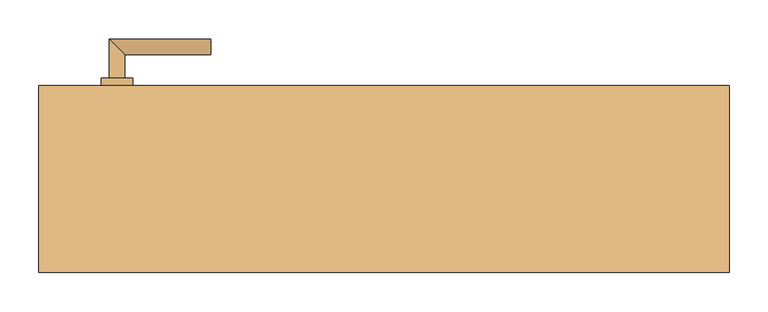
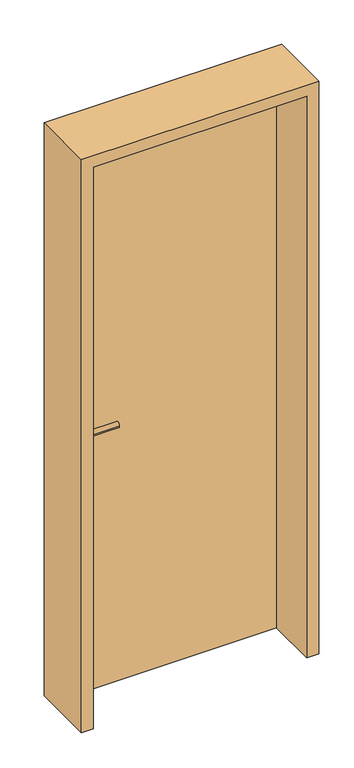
"""IFC4 building model written with IfcOpenShell, lengths in millimetres: door geometry, TU DF 1 - Rahmenstock flächenbündig variabel : ML - H - 885 x 2260."""

from ifc_helpers import new_model, si_unit, point, frame, frame_2d, origin, origin_with_axes, place, context, project, spatial, polyline, circle_curve, ellipse_curve, trimmed, segment, composite_curve, outline, extrude, faceted_brep, source, transform, mapped, element, save
from ifc_brep_helpers import plane_surface, cylinder_surface, advanced_brep


def door_5454d597(model_context):
    return source(origin(), model_context, "Body", "SolidModel", [
        extrude(outline(polyline([(408.5, 120.0), (408.5, 75.0), (-408.5, 75.0), (-408.5, 120.0), (408.5, 120.0)])), origin_with_axes(), (0.0, 0.0, 1.0), 2226.0),
        advanced_brep(
        [(-332.5, 130.0, 1050.0), (-352.5, 130.0, 1050.0), (-332.5, 160.0, 1050.0), (-352.5, 180.0, 1050.0), (-222.5, 160.0, 1050.0), (-222.5, 180.0, 1050.0)],
        [
            (0, 1, circle_curve(frame((-342.5, 130.0, 1050.0), z_axis=(0.0, -1.0, 0.0), x_axis=(-1.0, 0.0, 0.0)), 10.0)),
            (1, 0, circle_curve(frame((-342.5, 130.0, 1050.0), z_axis=(0.0, -1.0, 0.0), x_axis=(-1.0, 0.0, 0.0)), 10.0)),
            (0, 2),
            (2, 3, ellipse_curve(frame((-342.5, 170.0, 1050.0), z_axis=(-0.7071067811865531, -0.7071067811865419, 0.0), x_axis=(0.707106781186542, -0.707106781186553, 0.0)), 14.1421356, 10.0)),
            (3, 1),
            (3, 2, ellipse_curve(frame((-342.5, 170.0, 1050.0), z_axis=(-0.7071067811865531, -0.7071067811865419, 0.0), x_axis=(0.707106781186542, -0.707106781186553, 0.0)), 14.1421356, 10.0)),
            (4, 5, circle_curve(frame((-222.5, 170.0, 1050.0), z_axis=(1.0, 0.0, 0.0), x_axis=(0.0, 1.0, 0.0)), 10.0)),
            (5, 4, circle_curve(frame((-222.5, 170.0, 1050.0), z_axis=(1.0, 0.0, 0.0), x_axis=(0.0, 1.0, 0.0)), 10.0)),
            (2, 4),
            (5, 3),
        ],
        [
            plane_surface(frame((-342.5, 130.0, 1050.0), z_axis=(0.0, -1.0, 0.0), x_axis=(0.0, 0.0, 1.0))),
            cylinder_surface(frame((-342.5, 130.0, 1050.0), z_axis=(0.0, -1.0, 0.0), x_axis=(-1.0, 0.0, 0.0)), 10.0),
            plane_surface(frame((-222.5, 170.0, 1050.0), z_axis=(1.0, 0.0, 0.0), x_axis=(0.0, 0.0, 1.0))),
            cylinder_surface(frame((-342.5, 170.0, 1050.0), z_axis=(-1.0, 0.0, 0.0), x_axis=(0.0, 1.0, 0.0)), 10.0),
        ],
        [
            (0, [[1, 2]]),
            (1, [[-1, 3, 4, 5]]),
            (1, [[-2, -5, 6, -3]]),
            (2, [[7, 8]]),
            (3, [[-4, 9, -8, 10]]),
            (3, [[-6, -10, -7, -9]]),
        ],
    ),
        extrude(outline(composite_curve([segment(trimmed(circle_curve(frame_2d((990.0, -342.5)), 20.0), [point((990.0, -362.5))], [point((990.0, -322.5))], False, "CARTESIAN"), True, "CONTINUOUS"), segment(trimmed(circle_curve(frame_2d((990.0, -342.5)), 20.0), [point((990.0, -322.5))], [point((990.0, -362.5))], False, "CARTESIAN"), True, "CONTINUOUS")], self_intersect=False), holes=[composite_curve([segment(polyline([(976.4601385, -344.897268), (988.4749012, -344.897268)]), True, "CONTINUOUS"), segment(trimmed(circle_curve(frame_2d((995.0361633, -342.5)), 6.9854888), [point((988.4749012, -344.897268))], [point((988.4749012, -340.102732))], True, "CARTESIAN"), True, "CONTINUOUS"), segment(polyline([(988.4749012, -340.102732), (976.4601385, -340.102732)]), True, "CONTINUOUS"), segment(trimmed(circle_curve(frame_2d((976.4601385, -342.5)), 2.397268), [point((976.4601385, -340.102732))], [point((976.4601385, -344.897268))], True, "CARTESIAN"), True, "CONTINUOUS")], self_intersect=False)]), frame((0.0, 120.0, 0.0), z_axis=(0.0, 1.0, 0.0), x_axis=(0.0, 0.0, 1.0)), (0.0, 0.0, 1.0), 10.0),
        advanced_brep(
        [(-332.5, 130.0, 1050.0), (-352.5, 130.0, 1050.0), (-332.5, 160.0, 1050.0), (-352.5, 180.0, 1050.0), (-222.5, 160.0, 1050.0), (-222.5, 180.0, 1050.0)],
        [
            (0, 1, circle_curve(frame((-342.5, 130.0, 1050.0), z_axis=(0.0, -1.0, 0.0), x_axis=(-1.0, 0.0, 0.0)), 10.0)),
            (1, 0, circle_curve(frame((-342.5, 130.0, 1050.0), z_axis=(0.0, -1.0, 0.0), x_axis=(-1.0, 0.0, 0.0)), 10.0)),
            (0, 2),
            (2, 3, ellipse_curve(frame((-342.5, 170.0, 1050.0), z_axis=(-0.7071067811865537, -0.7071067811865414, 0.0), x_axis=(0.7071067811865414, -0.7071067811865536, 0.0)), 14.1421356, 10.0)),
            (3, 1),
            (3, 2, ellipse_curve(frame((-342.5, 170.0, 1050.0), z_axis=(-0.7071067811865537, -0.7071067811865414, 0.0), x_axis=(0.7071067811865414, -0.7071067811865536, 0.0)), 14.1421356, 10.0)),
            (4, 5, circle_curve(frame((-222.5, 170.0, 1050.0), z_axis=(1.0, 0.0, 0.0), x_axis=(0.0, 1.0, 0.0)), 10.0)),
            (5, 4, circle_curve(frame((-222.5, 170.0, 1050.0), z_axis=(1.0, 0.0, 0.0), x_axis=(0.0, 1.0, 0.0)), 10.0)),
            (2, 4),
            (5, 3),
        ],
        [
            plane_surface(frame((-342.5, 130.0, 1050.0), z_axis=(0.0, -1.0, 0.0), x_axis=(0.0, 0.0, 1.0))),
            cylinder_surface(frame((-342.5, 130.0, 1050.0), z_axis=(0.0, -1.0, 0.0), x_axis=(-1.0, 0.0, 0.0)), 10.0),
            plane_surface(frame((-222.5, 170.0, 1050.0), z_axis=(1.0, 0.0, 0.0), x_axis=(0.0, 0.0, 1.0))),
            cylinder_surface(frame((-342.5, 170.0, 1050.0), z_axis=(-1.0, 0.0, 0.0), x_axis=(0.0, 1.0, 0.0)), 10.0),
        ],
        [
            (0, [[1, 2]]),
            (1, [[-1, 3, 4, 5]]),
            (1, [[-2, -5, 6, -3]]),
            (2, [[7, 8]]),
            (3, [[-4, 9, -8, 10]]),
            (3, [[-6, -10, -7, -9]]),
        ],
    ),
        extrude(outline(composite_curve([segment(trimmed(circle_curve(frame_2d((1050.0, -342.5)), 20.0), [point((1050.0, -362.5))], [point((1050.0, -322.5))], False, "CARTESIAN"), True, "CONTINUOUS"), segment(trimmed(circle_curve(frame_2d((1050.0, -342.5)), 20.0), [point((1050.0, -322.5))], [point((1050.0, -362.5))], False, "CARTESIAN"), True, "CONTINUOUS")], self_intersect=False)), frame((0.0, 120.0, 0.0), z_axis=(0.0, 1.0, 0.0), x_axis=(0.0, 0.0, 1.0)), (0.0, 0.0, 1.0), 10.0),
        advanced_brep(
        [(-332.5, 65.0, 1050.0), (-352.5, 65.0, 1050.0), (-352.5, 15.0, 1050.0), (-332.5, 35.0, 1050.0), (-222.5, 35.0, 1050.0), (-222.5, 15.0, 1050.0)],
        [
            (0, 1, circle_curve(frame((-342.5, 65.0, 1050.0), z_axis=(0.0, 1.0, 0.0), x_axis=(-1.0, 0.0, 0.0)), 10.0)),
            (1, 0, circle_curve(frame((-342.5, 65.0, 1050.0), z_axis=(0.0, 1.0, 0.0), x_axis=(-1.0, 0.0, 0.0)), 10.0)),
            (1, 2),
            (2, 3, ellipse_curve(frame((-342.5, 25.0, 1050.0), z_axis=(-0.7071067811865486, 0.7071067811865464, 0.0), x_axis=(0.7071067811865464, 0.7071067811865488, 0.0)), 14.1421356, 10.0)),
            (3, 0),
            (3, 2, ellipse_curve(frame((-342.5, 25.0, 1050.0), z_axis=(-0.7071067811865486, 0.7071067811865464, 0.0), x_axis=(0.7071067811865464, 0.7071067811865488, 0.0)), 14.1421356, 10.0)),
            (4, 5, circle_curve(frame((-222.5, 25.0, 1050.0), z_axis=(1.0, 0.0, 0.0), x_axis=(0.0, -1.0, 0.0)), 10.0)),
            (5, 4, circle_curve(frame((-222.5, 25.0, 1050.0), z_axis=(1.0, 0.0, 0.0), x_axis=(0.0, -1.0, 0.0)), 10.0)),
            (2, 5),
            (4, 3),
        ],
        [
            plane_surface(frame((-342.5, 65.0, 1050.0), z_axis=(0.0, 1.0, 0.0), x_axis=(0.0, 0.0, 1.0))),
            cylinder_surface(frame((-342.5, 65.0, 1050.0), z_axis=(0.0, 1.0, 0.0), x_axis=(-1.0, 0.0, 0.0)), 10.0),
            plane_surface(frame((-222.5, 25.0, 1050.0), z_axis=(1.0, 0.0, 0.0), x_axis=(0.0, 0.0, 1.0))),
            cylinder_surface(frame((-342.5, 25.0, 1050.0), z_axis=(-1.0, 0.0, 0.0), x_axis=(0.0, -1.0, 0.0)), 10.0),
        ],
        [
            (0, [[1, 2]]),
            (1, [[3, 4, 5, -2]]),
            (1, [[-5, 6, -3, -1]]),
            (2, [[7, 8]]),
            (3, [[9, -7, 10, -4]]),
            (3, [[-10, -8, -9, -6]]),
        ],
    ),
        extrude(outline(composite_curve([segment(trimmed(circle_curve(frame_2d((990.0, -342.5)), 20.0), [point((990.0, -362.5))], [point((990.0, -322.5))], False, "CARTESIAN"), True, "CONTINUOUS"), segment(trimmed(circle_curve(frame_2d((990.0, -342.5)), 20.0), [point((990.0, -322.5))], [point((990.0, -362.5))], False, "CARTESIAN"), True, "CONTINUOUS")], self_intersect=False), holes=[composite_curve([segment(polyline([(976.4601385, -344.897268), (988.4749012, -344.897268)]), True, "CONTINUOUS"), segment(trimmed(circle_curve(frame_2d((995.0361633, -342.5)), 6.9854888), [point((988.4749012, -344.897268))], [point((988.4749012, -340.102732))], True, "CARTESIAN"), True, "CONTINUOUS"), segment(polyline([(988.4749012, -340.102732), (976.4601385, -340.102732)]), True, "CONTINUOUS"), segment(trimmed(circle_curve(frame_2d((976.4601385, -342.5)), 2.397268), [point((976.4601385, -340.102732))], [point((976.4601385, -344.897268))], True, "CARTESIAN"), True, "CONTINUOUS")], self_intersect=False)]), frame((0.0, 65.0, 0.0), z_axis=(0.0, 1.0, 0.0), x_axis=(0.0, 0.0, 1.0)), (0.0, 0.0, 1.0), 10.0),
        advanced_brep(
        [(-332.5, 65.0, 1050.0), (-352.5, 65.0, 1050.0), (-352.5, 15.0, 1050.0), (-332.5, 35.0, 1050.0), (-222.5, 35.0, 1050.0), (-222.5, 15.0, 1050.0)],
        [
            (0, 1, circle_curve(frame((-342.5, 65.0, 1050.0), z_axis=(0.0, 1.0, 0.0), x_axis=(-1.0, 0.0, 0.0)), 10.0)),
            (1, 0, circle_curve(frame((-342.5, 65.0, 1050.0), z_axis=(0.0, 1.0, 0.0), x_axis=(-1.0, 0.0, 0.0)), 10.0)),
            (1, 2),
            (2, 3, ellipse_curve(frame((-342.5, 25.0, 1050.0), z_axis=(-0.7071067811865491, 0.7071067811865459, 0.0), x_axis=(0.7071067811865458, 0.7071067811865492, 0.0)), 14.1421356, 10.0)),
            (3, 0),
            (3, 2, ellipse_curve(frame((-342.5, 25.0, 1050.0), z_axis=(-0.7071067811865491, 0.7071067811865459, 0.0), x_axis=(0.7071067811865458, 0.7071067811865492, 0.0)), 14.1421356, 10.0)),
            (4, 5, circle_curve(frame((-222.5, 25.0, 1050.0), z_axis=(1.0, 0.0, 0.0), x_axis=(0.0, -1.0, 0.0)), 10.0)),
            (5, 4, circle_curve(frame((-222.5, 25.0, 1050.0), z_axis=(1.0, 0.0, 0.0), x_axis=(0.0, -1.0, 0.0)), 10.0)),
            (2, 5),
            (4, 3),
        ],
        [
            plane_surface(frame((-342.5, 65.0, 1050.0), z_axis=(0.0, 1.0, 0.0), x_axis=(0.0, 0.0, 1.0))),
            cylinder_surface(frame((-342.5, 65.0, 1050.0), z_axis=(0.0, 1.0, 0.0), x_axis=(-1.0, 0.0, 0.0)), 10.0),
            plane_surface(frame((-222.5, 25.0, 1050.0), z_axis=(1.0, 0.0, 0.0), x_axis=(0.0, 0.0, 1.0))),
            cylinder_surface(frame((-342.5, 25.0, 1050.0), z_axis=(-1.0, 0.0, 0.0), x_axis=(0.0, -1.0, 0.0)), 10.0),
        ],
        [
            (0, [[1, 2]]),
            (1, [[3, 4, 5, -2]]),
            (1, [[-5, 6, -3, -1]]),
            (2, [[7, 8]]),
            (3, [[9, -7, 10, -4]]),
            (3, [[-10, -8, -9, -6]]),
        ],
    ),
        extrude(outline(composite_curve([segment(trimmed(circle_curve(frame_2d((1050.0, -342.5)), 20.0), [point((1050.0, -362.5))], [point((1050.0, -322.5))], False, "CARTESIAN"), True, "CONTINUOUS"), segment(trimmed(circle_curve(frame_2d((1050.0, -342.5)), 20.0), [point((1050.0, -322.5))], [point((1050.0, -362.5))], False, "CARTESIAN"), True, "CONTINUOUS")], self_intersect=False)), frame((0.0, 65.0, 0.0), z_axis=(0.0, 1.0, 0.0), x_axis=(0.0, 0.0, 1.0)), (0.0, 0.0, 1.0), 10.0),
        faceted_brep([(-412.5, 120.0, 0.0), (-412.5, 75.0, 0.0), (-397.5, 75.0, 0.0), (-397.5, -120.0, 0.0), (-442.5, -120.0, 0.0), (-442.5, 120.0, 0.0), (-412.5, 120.0, 2230.0), (-412.5, 75.0, 2230.0), (412.5, 75.0, 2230.0), (412.5, 75.0, 0.0), (397.5, 75.0, 0.0), (397.5, 75.0, 2215.0), (-397.5, 75.0, 2215.0), (-397.5, -120.0, 2215.0), (397.5, -120.0, 2215.0), (397.5, -120.0, 0.0), (442.5, -120.0, 0.0), (442.5, -120.0, 2260.0), (-442.5, -120.0, 2260.0), (-442.5, 120.0, 2260.0), (442.5, 120.0, 2260.0), (442.5, 120.0, 0.0), (412.5, 120.0, 0.0), (412.5, 120.0, 2230.0)], [[[0, 1, 2, 3, 4, 5]], [[1, 0, 6, 7]], [[2, 1, 7, 8, 9, 10, 11, 12]], [[3, 2, 12, 13]], [[4, 3, 13, 14, 15, 16, 17, 18]], [[5, 4, 18, 19]], [[0, 5, 19, 20, 21, 22, 23, 6]], [[20, 17, 16, 21]], [[22, 21, 16, 15, 10, 9]], [[8, 23, 22, 9]], [[14, 11, 10, 15]], [[19, 18, 17, 20]], [[13, 12, 11, 14]], [[7, 6, 23, 8]]]),
    ])


if __name__ == "__main__":
    model = new_model("IFC4")
    model_context = context("Model", 3, world=origin())
    ifc_project = project(units=[si_unit("LENGTHUNIT", "METRE", prefix="MILLI")], contexts=[model_context])
    site = spatial("IfcSite", under=ifc_project)
    building = spatial("IfcBuilding", under=site)
    placement = place(None, origin())
    door_shape = door_5454d597(model_context)
    element("IfcDoor", 1, ObjectType="TU DF 1 - Rahmenstock flächenbündig variabel : ML - H - 885 x 2260", at=placement, inside=building, context=model_context, shape_type="MappedRepresentation", body=[
        mapped(door_shape, transform((0.0, 0.0, 0.0), x_axis=(1.0, 0.0, 0.0), y_axis=(0.0, 1.0, 0.0), z_axis=(0.0, 0.0, 1.0))),
    ])
    save(model, "model.ifc")
